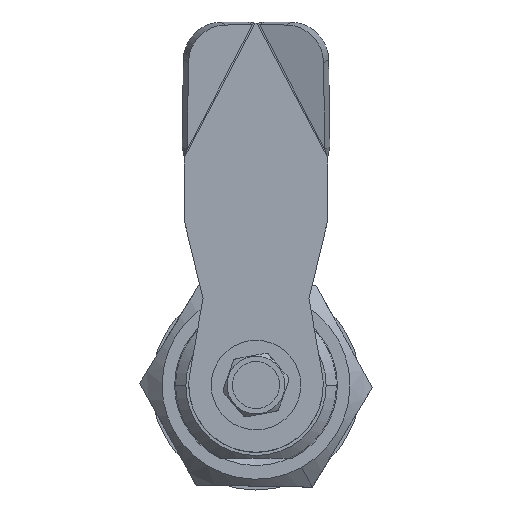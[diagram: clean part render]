
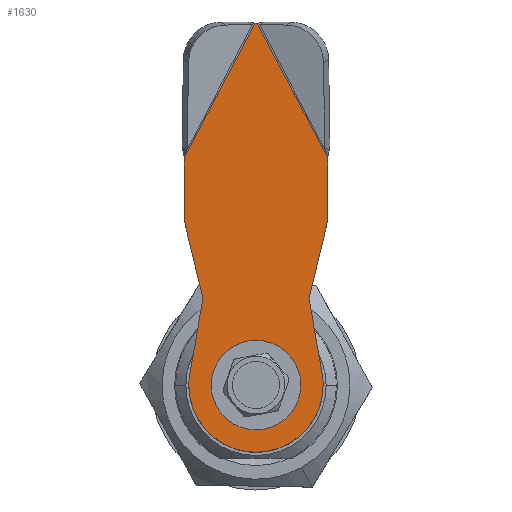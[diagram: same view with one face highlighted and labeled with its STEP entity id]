
A CAD part, top view. The second image highlights one B-rep face of the part: STEP entity #1630.
In plain terms, the highlighted planar face has unit normal (0, 0, 1).
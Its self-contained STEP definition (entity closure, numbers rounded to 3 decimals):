
#8 = VERTEX_POINT ( 'NONE', #2332 ) ;
#10 = EDGE_CURVE ( 'NONE', #8, #11, #2327, .T. ) ;
#11 = VERTEX_POINT ( 'NONE', #2379 ) ;
#346 = EDGE_CURVE ( 'NONE', #348, #8, #3024, .T. ) ;
#348 = VERTEX_POINT ( 'NONE', #3014 ) ;
#1530 = EDGE_CURVE ( 'NONE', #1634, #1872, #5260, .T. ) ;
#1624 = VERTEX_POINT ( 'NONE', #5456 ) ;
#1626 = EDGE_CURVE ( 'NONE', #1624, #1627, #5458, .T. ) ;
#1627 = VERTEX_POINT ( 'NONE', #5448 ) ;
#1630 = ADVANCED_FACE ( 'NONE', ( #5443, #5442 ), #5441, .F. ) ;
#1631 = EDGE_LOOP ( 'NONE', ( #1632, #1635, #1683, #1686, #1689, #1692, #1695, #1669, #1670, #1671, #1674, #1676 ) ) ;
#1632 = ORIENTED_EDGE ( 'NONE', *, *, #1633, .F. ) ;
#1633 = EDGE_CURVE ( 'NONE', #1634, #1624, #5439, .T. ) ;
#1634 = VERTEX_POINT ( 'NONE', #5431 ) ;
#1635 = ORIENTED_EDGE ( 'NONE', *, *, #1530, .T. ) ;
#1656 = EDGE_CURVE ( 'NONE', #1657, #1680, #5513, .T. ) ;
#1657 = VERTEX_POINT ( 'NONE', #5509 ) ;
#1658 = ORIENTED_EDGE ( 'NONE', *, *, #1659, .F. ) ;
#1659 = EDGE_CURVE ( 'NONE', #1660, #1657, #5508, .T. ) ;
#1660 = VERTEX_POINT ( 'NONE', #5504 ) ;
#1661 = ORIENTED_EDGE ( 'NONE', *, *, #1662, .F. ) ;
#1662 = EDGE_CURVE ( 'NONE', #1681, #1660, #5503, .T. ) ;
#1669 = ORIENTED_EDGE ( 'NONE', *, *, #10, .F. ) ;
#1670 = ORIENTED_EDGE ( 'NONE', *, *, #346, .F. ) ;
#1671 = ORIENTED_EDGE ( 'NONE', *, *, #1672, .F. ) ;
#1672 = EDGE_CURVE ( 'NONE', #1673, #348, #5492, .T. ) ;
#1673 = VERTEX_POINT ( 'NONE', #5544 ) ;
#1674 = ORIENTED_EDGE ( 'NONE', *, *, #1675, .F. ) ;
#1675 = EDGE_CURVE ( 'NONE', #1627, #1673, #5543, .T. ) ;
#1676 = ORIENTED_EDGE ( 'NONE', *, *, #1626, .F. ) ;
#1677 = EDGE_LOOP ( 'NONE', ( #1678, #1682, #1658, #1661 ) ) ;
#1678 = ORIENTED_EDGE ( 'NONE', *, *, #1679, .F. ) ;
#1679 = EDGE_CURVE ( 'NONE', #1680, #1681, #5539, .T. ) ;
#1680 = VERTEX_POINT ( 'NONE', #5535 ) ;
#1681 = VERTEX_POINT ( 'NONE', #5534 ) ;
#1682 = ORIENTED_EDGE ( 'NONE', *, *, #1656, .F. ) ;
#1683 = ORIENTED_EDGE ( 'NONE', *, *, #1684, .T. ) ;
#1684 = EDGE_CURVE ( 'NONE', #1872, #1685, #5533, .T. ) ;
#1685 = VERTEX_POINT ( 'NONE', #5529 ) ;
#1686 = ORIENTED_EDGE ( 'NONE', *, *, #1687, .T. ) ;
#1687 = EDGE_CURVE ( 'NONE', #1685, #1688, #5528, .T. ) ;
#1688 = VERTEX_POINT ( 'NONE', #5524 ) ;
#1689 = ORIENTED_EDGE ( 'NONE', *, *, #1690, .T. ) ;
#1690 = EDGE_CURVE ( 'NONE', #1688, #1691, #5523, .T. ) ;
#1691 = VERTEX_POINT ( 'NONE', #5519 ) ;
#1692 = ORIENTED_EDGE ( 'NONE', *, *, #1693, .T. ) ;
#1693 = EDGE_CURVE ( 'NONE', #1691, #1694, #5518, .T. ) ;
#1694 = VERTEX_POINT ( 'NONE', #5578 ) ;
#1695 = ORIENTED_EDGE ( 'NONE', *, *, #1696, .F. ) ;
#1696 = EDGE_CURVE ( 'NONE', #11, #1694, #5577, .T. ) ;
#1872 = VERTEX_POINT ( 'NONE', #5856 ) ;
#2325 = CARTESIAN_POINT ( 'NONE',  ( 0., 0., 3. ) ) ;
#2326 = AXIS2_PLACEMENT_3D ( 'NONE', #2325, #2381, #2380 ) ;
#2327 = CIRCLE ( 'NONE', #2326, 9. ) ;
#2332 = CARTESIAN_POINT ( 'NONE',  ( -9., 0., 3. ) ) ;
#2379 = CARTESIAN_POINT ( 'NONE',  ( 9., 0., 3. ) ) ;
#2380 = DIRECTION ( 'NONE',  ( -1., 0., 0. ) ) ;
#2381 = DIRECTION ( 'NONE',  ( 0., 0., -1. ) ) ;
#3014 = CARTESIAN_POINT ( 'NONE',  ( -8.863, -1.563, 3. ) ) ;
#3020 = DIRECTION ( 'NONE',  ( -1., 0., 0. ) ) ;
#3021 = DIRECTION ( 'NONE',  ( 0., 0., -1. ) ) ;
#3022 = CARTESIAN_POINT ( 'NONE',  ( 0., 0., 3. ) ) ;
#3023 = AXIS2_PLACEMENT_3D ( 'NONE', #3022, #3021, #3020 ) ;
#3024 = CIRCLE ( 'NONE', #3023, 9. ) ;
#5257 = DIRECTION ( 'NONE',  ( 1., 0., 0. ) ) ;
#5258 = VECTOR ( 'NONE', #5257, 1000. ) ;
#5259 = CARTESIAN_POINT ( 'NONE',  ( -47.293, -48.5, 3. ) ) ;
#5260 = LINE ( 'NONE', #5259, #5258 ) ;
#5431 = CARTESIAN_POINT ( 'NONE',  ( -0.145, -48.5, 3. ) ) ;
#5433 = DIRECTION ( 'NONE',  ( -0.464, 0.886, 0. ) ) ;
#5434 = VECTOR ( 'NONE', #5433, 1000. ) ;
#5435 = CARTESIAN_POINT ( 'NONE',  ( -22.101, -6.561, 3. ) ) ;
#5436 = DIRECTION ( 'NONE',  ( -1., 0., 0. ) ) ;
#5437 = DIRECTION ( 'NONE',  ( 0., 0., -1. ) ) ;
#5438 = AXIS2_PLACEMENT_3D ( 'NONE', #5440, #5437, #5436 ) ;
#5439 = LINE ( 'NONE', #5435, #5434 ) ;
#5440 = CARTESIAN_POINT ( 'NONE',  ( -47.293, -19.75, 3. ) ) ;
#5441 = PLANE ( 'NONE',  #5438 ) ;
#5442 = FACE_BOUND ( 'NONE', #1677, .T. ) ;
#5443 = FACE_OUTER_BOUND ( 'NONE', #1631, .T. ) ;
#5448 = CARTESIAN_POINT ( 'NONE',  ( -9.6, -22., 3. ) ) ;
#5449 = DIRECTION ( 'NONE',  ( 0., 1., 0. ) ) ;
#5450 = VECTOR ( 'NONE', #5449, 1000. ) ;
#5451 = CARTESIAN_POINT ( 'NONE',  ( -9.6, -19.75, 3. ) ) ;
#5456 = CARTESIAN_POINT ( 'NONE',  ( -9.6, -30.439, 3. ) ) ;
#5458 = LINE ( 'NONE', #5451, #5450 ) ;
#5492 = LINE ( 'NONE', #5547, #5546 ) ;
#5500 = DIRECTION ( 'NONE',  ( -1., 0., 0. ) ) ;
#5501 = VECTOR ( 'NONE', #5500, 1000. ) ;
#5502 = CARTESIAN_POINT ( 'NONE',  ( 4., 4., 3. ) ) ;
#5503 = LINE ( 'NONE', #5502, #5501 ) ;
#5504 = CARTESIAN_POINT ( 'NONE',  ( -4., 4., 3. ) ) ;
#5505 = DIRECTION ( 'NONE',  ( 0., -1., 0. ) ) ;
#5506 = VECTOR ( 'NONE', #5505, 1000. ) ;
#5507 = CARTESIAN_POINT ( 'NONE',  ( -4., 4., 3. ) ) ;
#5508 = LINE ( 'NONE', #5507, #5506 ) ;
#5509 = CARTESIAN_POINT ( 'NONE',  ( -4., -4., 3. ) ) ;
#5510 = DIRECTION ( 'NONE',  ( 1., 0., 0. ) ) ;
#5511 = VECTOR ( 'NONE', #5510, 1000. ) ;
#5512 = CARTESIAN_POINT ( 'NONE',  ( -4., -4., 3. ) ) ;
#5513 = LINE ( 'NONE', #5512, #5511 ) ;
#5518 = LINE ( 'NONE', #5581, #5580 ) ;
#5519 = CARTESIAN_POINT ( 'NONE',  ( 7.1, -11.563, 3. ) ) ;
#5520 = DIRECTION ( 'NONE',  ( -0.233, 0.972, 0. ) ) ;
#5521 = VECTOR ( 'NONE', #5520, 1000. ) ;
#5522 = CARTESIAN_POINT ( 'NONE',  ( 6.003, -6.984, 3. ) ) ;
#5523 = LINE ( 'NONE', #5522, #5521 ) ;
#5524 = CARTESIAN_POINT ( 'NONE',  ( 9.6, -22., 3. ) ) ;
#5525 = DIRECTION ( 'NONE',  ( 0., 1., 0. ) ) ;
#5526 = VECTOR ( 'NONE', #5525, 1000. ) ;
#5527 = CARTESIAN_POINT ( 'NONE',  ( 9.6, -19.75, 3. ) ) ;
#5528 = LINE ( 'NONE', #5527, #5526 ) ;
#5529 = CARTESIAN_POINT ( 'NONE',  ( 9.6, -30.439, 3. ) ) ;
#5530 = DIRECTION ( 'NONE',  ( 0.464, 0.886, 0. ) ) ;
#5531 = VECTOR ( 'NONE', #5530, 1000. ) ;
#5532 = CARTESIAN_POINT ( 'NONE',  ( 1.753, -45.427, 3. ) ) ;
#5533 = LINE ( 'NONE', #5532, #5531 ) ;
#5534 = CARTESIAN_POINT ( 'NONE',  ( 4., 4., 3. ) ) ;
#5535 = CARTESIAN_POINT ( 'NONE',  ( 4., -4., 3. ) ) ;
#5536 = DIRECTION ( 'NONE',  ( 0., 1., 0. ) ) ;
#5537 = VECTOR ( 'NONE', #5536, 1000. ) ;
#5538 = CARTESIAN_POINT ( 'NONE',  ( 4., -4., 3. ) ) ;
#5539 = LINE ( 'NONE', #5538, #5537 ) ;
#5540 = DIRECTION ( 'NONE',  ( 0.233, 0.972, 0. ) ) ;
#5541 = VECTOR ( 'NONE', #5540, 1000. ) ;
#5542 = CARTESIAN_POINT ( 'NONE',  ( -11.136, -28.411, 3. ) ) ;
#5543 = LINE ( 'NONE', #5542, #5541 ) ;
#5544 = CARTESIAN_POINT ( 'NONE',  ( -7.1, -11.563, 3. ) ) ;
#5545 = DIRECTION ( 'NONE',  ( -0.174, 0.985, 0. ) ) ;
#5546 = VECTOR ( 'NONE', #5545, 1000. ) ;
#5547 = CARTESIAN_POINT ( 'NONE',  ( -6.912, -12.63, 3. ) ) ;
#5573 = DIRECTION ( 'NONE',  ( -1., 0., 0. ) ) ;
#5574 = DIRECTION ( 'NONE',  ( 0., 0., -1. ) ) ;
#5575 = CARTESIAN_POINT ( 'NONE',  ( 0., 0., 3. ) ) ;
#5576 = AXIS2_PLACEMENT_3D ( 'NONE', #5575, #5574, #5573 ) ;
#5577 = CIRCLE ( 'NONE', #5576, 9. ) ;
#5578 = CARTESIAN_POINT ( 'NONE',  ( 8.863, -1.563, 3. ) ) ;
#5579 = DIRECTION ( 'NONE',  ( 0.174, 0.985, 0. ) ) ;
#5580 = VECTOR ( 'NONE', #5579, 1000. ) ;
#5581 = CARTESIAN_POINT ( 'NONE',  ( 4.06, -28.805, 3. ) ) ;
#5856 = CARTESIAN_POINT ( 'NONE',  ( 0.145, -48.5, 3. ) ) ;
